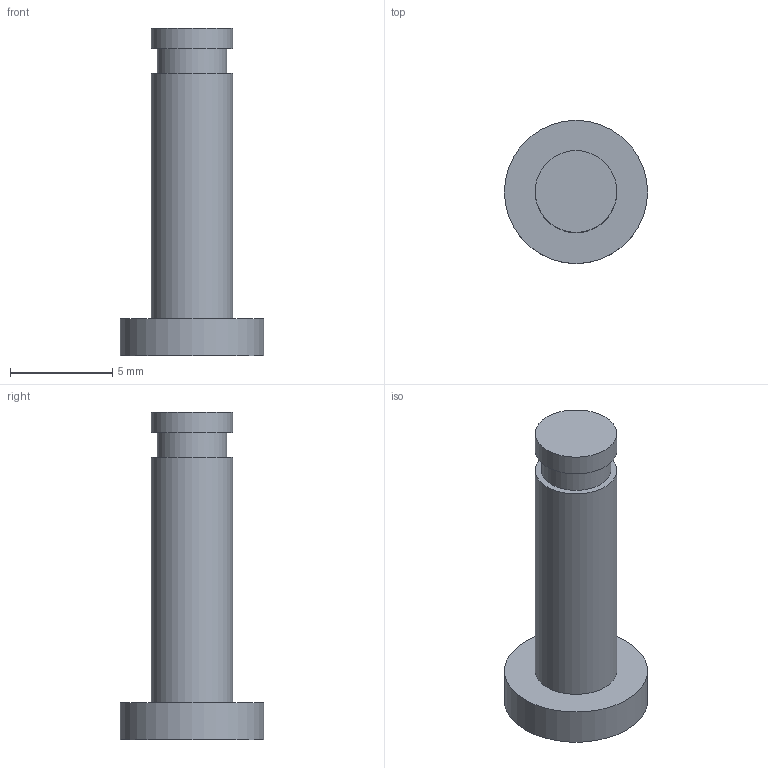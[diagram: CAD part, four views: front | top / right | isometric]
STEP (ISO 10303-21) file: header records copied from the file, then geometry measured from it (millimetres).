
FILE_DESCRIPTION(('Open CASCADE Model'),'2;1');
FILE_NAME('SCZ-PIN4-L16','2026-11-15T22:39:11',('Author'),( 'Open CASCADE'),'Open CASCADE STEP processor 8.0','build123d', 'Unknown');
FILE_SCHEMA(('AUTOMOTIVE_DESIGN { 1 0 10303 214 1 1 1 1 }'));
Length unit declared in the file: millimetre
Products named in the file (1): SCZ-PIN4-L16
Bounding box: 7 x 7 x 16 mm (x, y, z)
Volume: 243.5 mm3; surface area: 299.7 mm2
Topology: 1 solids, 1 shells, 9 faces, 12 edges, 8 vertices
Faces by surface type: plane 5, cylinder 4
Full cylindrical faces by diameter (mm): 3.4 x1, 4 x2, 7 x1
Entity records: 360 total; most frequent: DIRECTION 64, CARTESIAN_POINT 54, ORIENTED_EDGE 24, PCURVE 24, DEFINITIONAL_REPRESENTATION 24, LINE 20, VECTOR 20, AXIS2_PLACEMENT_3D 18
